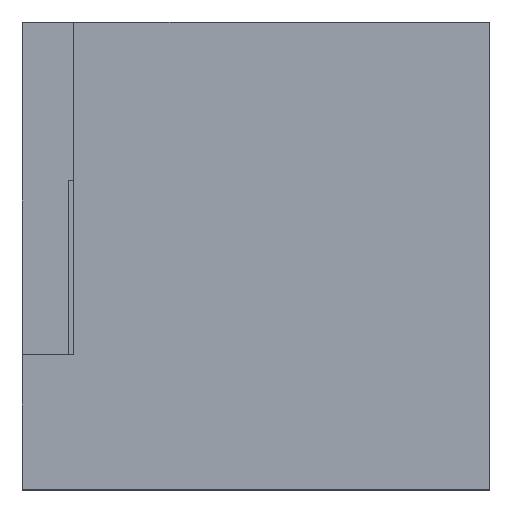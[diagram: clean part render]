
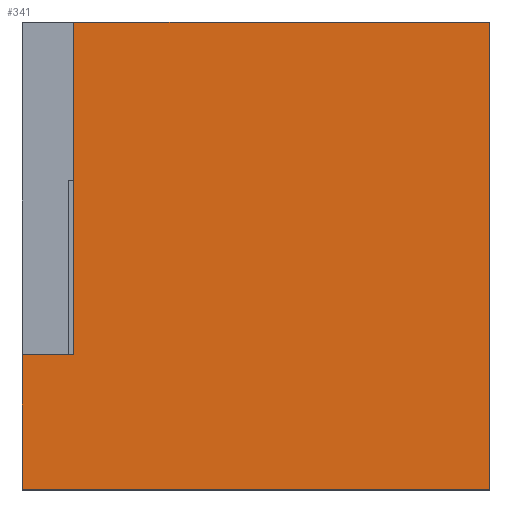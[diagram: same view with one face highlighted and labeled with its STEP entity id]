
A CAD part, top view. The second image highlights one B-rep face of the part: STEP entity #341.
In plain terms, the highlighted planar face has unit normal (0, 0, 1).
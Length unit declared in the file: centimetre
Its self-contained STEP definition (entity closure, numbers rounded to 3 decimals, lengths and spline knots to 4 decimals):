
#2 = DIRECTION ( 'NONE',  ( 1., 0., 0. ) ) ;
#8 = VECTOR ( 'NONE', #98, 100. ) ;
#22 = EDGE_CURVE ( 'NONE', #146, #184, #243, .T. ) ;
#26 = VERTEX_POINT ( 'NONE', #72 ) ;
#29 = FACE_OUTER_BOUND ( 'NONE', #272, .T. ) ;
#46 = CARTESIAN_POINT ( 'NONE',  ( 110.0534, 1000., 1000. ) ) ;
#48 = CARTESIAN_POINT ( 'NONE',  ( 1000., 1000., 1000. ) ) ;
#54 = VECTOR ( 'NONE', #2, 100. ) ;
#72 = CARTESIAN_POINT ( 'NONE',  ( 0., 287.4507, 1000. ) ) ;
#74 = VERTEX_POINT ( 'NONE', #172 ) ;
#80 = ORIENTED_EDGE ( 'NONE', *, *, #413, .T. ) ;
#92 = LINE ( 'NONE', #465, #8 ) ;
#94 = LINE ( 'NONE', #302, #516 ) ;
#98 = DIRECTION ( 'NONE',  ( 0., -1., 0. ) ) ;
#123 = LINE ( 'NONE', #479, #398 ) ;
#129 = CARTESIAN_POINT ( 'NONE',  ( 1000., 1000., 1000. ) ) ;
#138 = DIRECTION ( 'NONE',  ( 0., 1., 0. ) ) ;
#140 = AXIS2_PLACEMENT_3D ( 'NONE', #194, #201, #283 ) ;
#141 = CARTESIAN_POINT ( 'NONE',  ( 1000., 0., 1000. ) ) ;
#146 = VERTEX_POINT ( 'NONE', #464 ) ;
#150 = ORIENTED_EDGE ( 'NONE', *, *, #179, .F. ) ;
#163 = PLANE ( 'NONE',  #140 ) ;
#172 = CARTESIAN_POINT ( 'NONE',  ( 110.0534, 287.4507, 1000. ) ) ;
#179 = EDGE_CURVE ( 'NONE', #74, #429, #424, .T. ) ;
#184 = VERTEX_POINT ( 'NONE', #141 ) ;
#194 = CARTESIAN_POINT ( 'NONE',  ( 0., 0., 1000. ) ) ;
#198 = ORIENTED_EDGE ( 'NONE', *, *, #466, .T. ) ;
#201 = DIRECTION ( 'NONE',  ( 0., 0., 1. ) ) ;
#212 = CARTESIAN_POINT ( 'NONE',  ( 110.0534, 287.4507, 1000. ) ) ;
#214 = LINE ( 'NONE', #48, #505 ) ;
#216 = EDGE_CURVE ( 'NONE', #26, #146, #92, .T. ) ;
#225 = ORIENTED_EDGE ( 'NONE', *, *, #254, .F. ) ;
#243 = LINE ( 'NONE', #357, #54 ) ;
#254 = EDGE_CURVE ( 'NONE', #26, #74, #94, .T. ) ;
#262 = DIRECTION ( 'NONE',  ( 0., 1., 0. ) ) ;
#272 = EDGE_LOOP ( 'NONE', ( #150, #225, #439, #518, #198, #80 ) ) ;
#280 = DIRECTION ( 'NONE',  ( -1., 0., 0. ) ) ;
#283 = DIRECTION ( 'NONE',  ( 1., 0., 0. ) ) ;
#302 = CARTESIAN_POINT ( 'NONE',  ( 0., 287.4507, 1000. ) ) ;
#341 = ADVANCED_FACE ( 'NONE', ( #29 ), #163, .T. ) ;
#357 = CARTESIAN_POINT ( 'NONE',  ( 0., 0., 1000. ) ) ;
#398 = VECTOR ( 'NONE', #280, 100. ) ;
#413 = EDGE_CURVE ( 'NONE', #475, #429, #123, .T. ) ;
#422 = VECTOR ( 'NONE', #262, 100. ) ;
#424 = LINE ( 'NONE', #212, #422 ) ;
#429 = VERTEX_POINT ( 'NONE', #46 ) ;
#439 = ORIENTED_EDGE ( 'NONE', *, *, #216, .T. ) ;
#464 = CARTESIAN_POINT ( 'NONE',  ( 0., 0., 1000. ) ) ;
#465 = CARTESIAN_POINT ( 'NONE',  ( 0., 1000., 1000. ) ) ;
#466 = EDGE_CURVE ( 'NONE', #184, #475, #214, .T. ) ;
#475 = VERTEX_POINT ( 'NONE', #129 ) ;
#479 = CARTESIAN_POINT ( 'NONE',  ( 0., 1000., 1000. ) ) ;
#502 = DIRECTION ( 'NONE',  ( 1., 0., 0. ) ) ;
#505 = VECTOR ( 'NONE', #138, 100. ) ;
#516 = VECTOR ( 'NONE', #502, 100. ) ;
#518 = ORIENTED_EDGE ( 'NONE', *, *, #22, .T. ) ;
